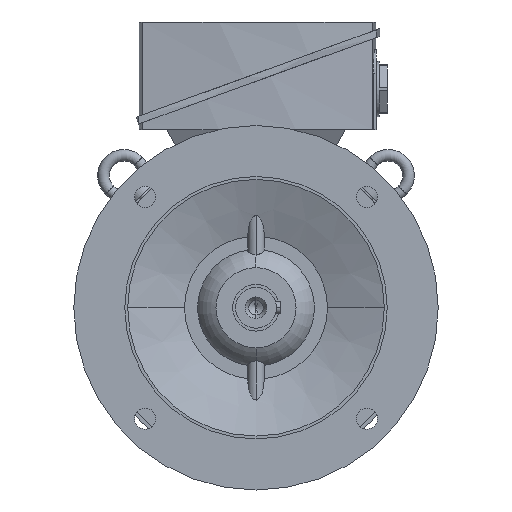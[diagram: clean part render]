
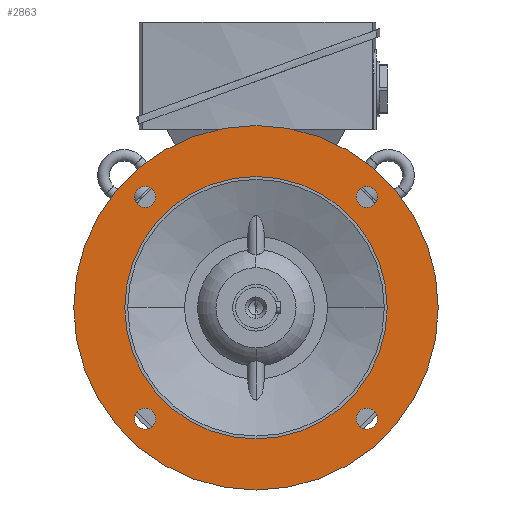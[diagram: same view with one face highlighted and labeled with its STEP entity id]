
A CAD part, left-side view. The second image highlights one B-rep face of the part: STEP entity #2863.
In plain terms, the highlighted planar face has unit normal (-1, 0, 0).
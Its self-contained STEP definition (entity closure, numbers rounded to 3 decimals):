
#2863=ADVANCED_FACE('',(#5787,#5788,#5789,#5790,#5791,#5792),#5793,.T.);
#5787=FACE_BOUND('',#8713,.T.);
#5788=FACE_BOUND('',#8714,.T.);
#5789=FACE_BOUND('',#8715,.T.);
#5790=FACE_BOUND('',#8716,.T.);
#5791=FACE_OUTER_BOUND('',#8717,.T.);
#5792=FACE_BOUND('',#8718,.T.);
#5793=PLANE('',#8719);
#8713=EDGE_LOOP('',(#17723,#17724));
#8714=EDGE_LOOP('',(#17725,#17726));
#8715=EDGE_LOOP('',(#17727,#17728));
#8716=EDGE_LOOP('',(#17729,#17730));
#8717=EDGE_LOOP('',(#17731,#17732));
#8718=EDGE_LOOP('',(#17733,#17734));
#8719=AXIS2_PLACEMENT_3D('',#17735,#17736,#17737);
#17723=ORIENTED_EDGE('',*,*,#21316,.T.);
#17724=ORIENTED_EDGE('',*,*,#17857,.T.);
#17725=ORIENTED_EDGE('',*,*,#21318,.T.);
#17726=ORIENTED_EDGE('',*,*,#17852,.T.);
#17727=ORIENTED_EDGE('',*,*,#21320,.T.);
#17728=ORIENTED_EDGE('',*,*,#17847,.T.);
#17729=ORIENTED_EDGE('',*,*,#21322,.T.);
#17730=ORIENTED_EDGE('',*,*,#17842,.T.);
#17731=ORIENTED_EDGE('',*,*,#17822,.F.);
#17732=ORIENTED_EDGE('',*,*,#21348,.F.);
#17733=ORIENTED_EDGE('',*,*,#17829,.T.);
#17734=ORIENTED_EDGE('',*,*,#21346,.T.);
#17735=CARTESIAN_POINT('',(-40.0,107.5,0.0));
#17736=DIRECTION('',(-1.0,0.0,0.0));
#17737=DIRECTION('',(0.0,-1.0,0.0));
#17822=EDGE_CURVE('',#21421,#21424,#21425,.T.);
#17829=EDGE_CURVE('',#21431,#21435,#21437,.T.);
#17842=EDGE_CURVE('',#21460,#21457,#21461,.T.);
#17847=EDGE_CURVE('',#21469,#21466,#21470,.T.);
#17852=EDGE_CURVE('',#21478,#21475,#21479,.T.);
#17857=EDGE_CURVE('',#21487,#21484,#21488,.T.);
#21316=EDGE_CURVE('',#21484,#21487,#26619,.T.);
#21318=EDGE_CURVE('',#21475,#21478,#26621,.T.);
#21320=EDGE_CURVE('',#21466,#21469,#26623,.T.);
#21322=EDGE_CURVE('',#21457,#21460,#26625,.T.);
#21346=EDGE_CURVE('',#21435,#21431,#26649,.T.);
#21348=EDGE_CURVE('',#21424,#21421,#26651,.T.);
#21421=VERTEX_POINT('',#26946);
#21424=VERTEX_POINT('',#26950);
#21425=CIRCLE('',#26951,125.0);
#21431=VERTEX_POINT('',#26958);
#21435=VERTEX_POINT('',#26963);
#21437=CIRCLE('',#26966,90.0);
#21457=VERTEX_POINT('',#27004);
#21460=VERTEX_POINT('',#27008);
#21461=CIRCLE('',#27009,7.25);
#21466=VERTEX_POINT('',#27015);
#21469=VERTEX_POINT('',#27019);
#21470=CIRCLE('',#27020,7.25);
#21475=VERTEX_POINT('',#27026);
#21478=VERTEX_POINT('',#27030);
#21479=CIRCLE('',#27031,7.25);
#21484=VERTEX_POINT('',#27037);
#21487=VERTEX_POINT('',#27041);
#21488=CIRCLE('',#27042,7.25);
#26619=CIRCLE('',#41514,7.25);
#26621=CIRCLE('',#41516,7.25);
#26623=CIRCLE('',#41518,7.25);
#26625=CIRCLE('',#41520,7.25);
#26649=CIRCLE('',#41575,90.0);
#26651=CIRCLE('',#41577,125.0);
#26946=CARTESIAN_POINT('',(-40.0,125.0,0.0));
#26950=CARTESIAN_POINT('',(-40.0,-125.0,0.));
#26951=AXIS2_PLACEMENT_3D('',#41651,#41652,#41653);
#26958=CARTESIAN_POINT('',(-40.0,90.0,0.0));
#26963=CARTESIAN_POINT('',(-40.0,-90.0,0.));
#26966=AXIS2_PLACEMENT_3D('',#41663,#41664,#41665);
#27004=CARTESIAN_POINT('',(-40.0,-81.141,81.141));
#27008=CARTESIAN_POINT('',(-40.0,-70.887,70.887));
#27009=AXIS2_PLACEMENT_3D('',#41685,#41686,#41687);
#27015=CARTESIAN_POINT('',(-40.0,81.141,81.141));
#27019=CARTESIAN_POINT('',(-40.0,70.887,70.887));
#27020=AXIS2_PLACEMENT_3D('',#41693,#41694,#41695);
#27026=CARTESIAN_POINT('',(-40.0,81.141,-81.141));
#27030=CARTESIAN_POINT('',(-40.0,70.887,-70.887));
#27031=AXIS2_PLACEMENT_3D('',#41701,#41702,#41703);
#27037=CARTESIAN_POINT('',(-40.0,-81.141,-81.141));
#27041=CARTESIAN_POINT('',(-40.0,-70.887,-70.887));
#27042=AXIS2_PLACEMENT_3D('',#41709,#41710,#41711);
#41514=AXIS2_PLACEMENT_3D('',#44800,#44801,#44802);
#41516=AXIS2_PLACEMENT_3D('',#44803,#44804,#44805);
#41518=AXIS2_PLACEMENT_3D('',#44806,#44807,#44808);
#41520=AXIS2_PLACEMENT_3D('',#44809,#44810,#44811);
#41575=AXIS2_PLACEMENT_3D('',#44822,#44823,#44824);
#41577=AXIS2_PLACEMENT_3D('',#44825,#44826,#44827);
#41651=CARTESIAN_POINT('',(-40.0,0.0,0.0));
#41652=DIRECTION('',(1.0,0.0,0.0));
#41653=DIRECTION('',(0.0,1.0,0.0));
#41663=CARTESIAN_POINT('',(-40.0,0.0,0.0));
#41664=DIRECTION('',(1.0,0.0,0.0));
#41665=DIRECTION('',(0.0,1.0,0.0));
#41685=CARTESIAN_POINT('',(-40.0,-76.014,76.014));
#41686=DIRECTION('',(1.0,0.0,-0.0));
#41687=DIRECTION('',(0.0,-0.707,0.707));
#41693=CARTESIAN_POINT('',(-40.0,76.014,76.014));
#41694=DIRECTION('',(1.0,0.0,-0.0));
#41695=DIRECTION('',(0.0,0.707,0.707));
#41701=CARTESIAN_POINT('',(-40.0,76.014,-76.014));
#41702=DIRECTION('',(1.0,-0.0,0.0));
#41703=DIRECTION('',(0.0,0.707,-0.707));
#41709=CARTESIAN_POINT('',(-40.0,-76.014,-76.014));
#41710=DIRECTION('',(1.0,0.0,0.0));
#41711=DIRECTION('',(0.0,-0.707,-0.707));
#44800=CARTESIAN_POINT('',(-40.0,-76.014,-76.014));
#44801=DIRECTION('',(1.0,0.0,0.0));
#44802=DIRECTION('',(0.0,-0.707,-0.707));
#44803=CARTESIAN_POINT('',(-40.0,76.014,-76.014));
#44804=DIRECTION('',(1.0,-0.0,0.0));
#44805=DIRECTION('',(0.0,0.707,-0.707));
#44806=CARTESIAN_POINT('',(-40.0,76.014,76.014));
#44807=DIRECTION('',(1.0,0.0,-0.0));
#44808=DIRECTION('',(0.0,0.707,0.707));
#44809=CARTESIAN_POINT('',(-40.0,-76.014,76.014));
#44810=DIRECTION('',(1.0,0.0,-0.0));
#44811=DIRECTION('',(0.0,-0.707,0.707));
#44822=CARTESIAN_POINT('',(-40.0,0.0,0.0));
#44823=DIRECTION('',(1.0,0.0,0.0));
#44824=DIRECTION('',(0.0,1.0,0.0));
#44825=CARTESIAN_POINT('',(-40.0,0.0,0.0));
#44826=DIRECTION('',(1.0,0.0,0.0));
#44827=DIRECTION('',(0.0,1.0,0.0));
